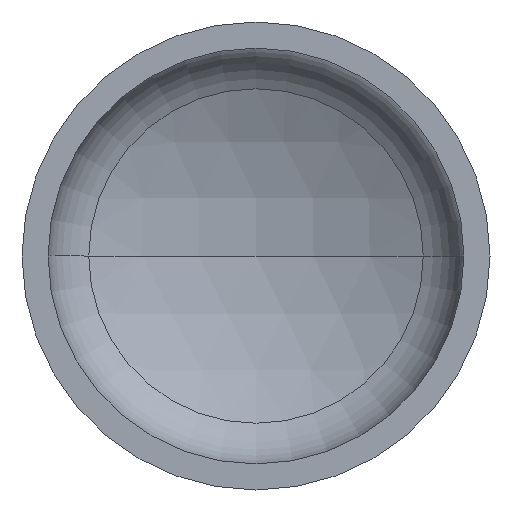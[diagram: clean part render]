
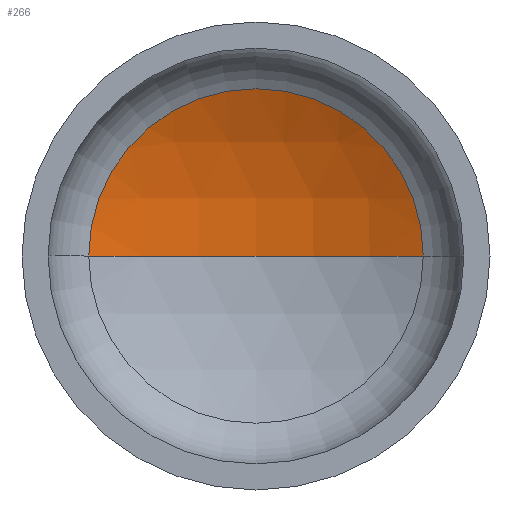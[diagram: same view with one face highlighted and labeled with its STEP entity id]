
A CAD part, front view. The second image highlights one B-rep face of the part: STEP entity #266.
In plain terms, the highlighted spherical face has radius 560 mm.
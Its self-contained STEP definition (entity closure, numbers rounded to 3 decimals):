
#49 = EDGE_LOOP ( 'NONE', ( #165, #140, #61 ) ) ;
#61 = ORIENTED_EDGE ( 'NONE', *, *, #191, .T. ) ;
#92 = DIRECTION ( 'NONE',  ( -1., 0., 0. ) ) ;
#93 = VERTEX_POINT ( 'NONE', #181 ) ;
#119 = DIRECTION ( 'NONE',  ( 0., -1., 0. ) ) ;
#121 = DIRECTION ( 'NONE',  ( 1., 0., 0. ) ) ;
#126 = CARTESIAN_POINT ( 'NONE',  ( 0., 218.417, 0. ) ) ;
#129 = CARTESIAN_POINT ( 'NONE',  ( 0., -282.615, 0. ) ) ;
#136 = DIRECTION ( 'NONE',  ( -1., 0., 0. ) ) ;
#140 = ORIENTED_EDGE ( 'NONE', *, *, #335, .T. ) ;
#161 = DIRECTION ( 'NONE',  ( 0., 0., 1. ) ) ;
#165 = ORIENTED_EDGE ( 'NONE', *, *, #369, .F. ) ;
#172 = VERTEX_POINT ( 'NONE', #393 ) ;
#181 = CARTESIAN_POINT ( 'NONE',  ( 250.133, 218.417, 0. ) ) ;
#191 = EDGE_CURVE ( 'NONE', #93, #172, #254, .T. ) ;
#193 = AXIS2_PLACEMENT_3D ( 'NONE', #126, #119, #121 ) ;
#196 = CARTESIAN_POINT ( 'NONE',  ( 0., -282.615, 0. ) ) ;
#222 = DIRECTION ( 'NONE',  ( 0., 0., -1. ) ) ;
#230 = CARTESIAN_POINT ( 'NONE',  ( 0., -282.615, 0. ) ) ;
#244 = SPHERICAL_SURFACE ( 'NONE', #277, 560. ) ;
#254 = CIRCLE ( 'NONE', #193, 250.133 ) ;
#256 = DIRECTION ( 'NONE',  ( 1., 0., 0. ) ) ;
#266 = ADVANCED_FACE ( 'NONE', ( #315 ), #244, .F. ) ;
#277 = AXIS2_PLACEMENT_3D ( 'NONE', #129, #387, #136 ) ;
#303 = VERTEX_POINT ( 'NONE', #407 ) ;
#312 = AXIS2_PLACEMENT_3D ( 'NONE', #230, #222, #92 ) ;
#315 = FACE_OUTER_BOUND ( 'NONE', #49, .T. ) ;
#335 = EDGE_CURVE ( 'NONE', #303, #93, #406, .T. ) ;
#351 = CIRCLE ( 'NONE', #384, 560. ) ;
#369 = EDGE_CURVE ( 'NONE', #303, #172, #351, .T. ) ;
#384 = AXIS2_PLACEMENT_3D ( 'NONE', #196, #161, #256 ) ;
#387 = DIRECTION ( 'NONE',  ( 0., 0., -1. ) ) ;
#393 = CARTESIAN_POINT ( 'NONE',  ( -250.133, 218.417, 0. ) ) ;
#406 = CIRCLE ( 'NONE', #312, 560. ) ;
#407 = CARTESIAN_POINT ( 'NONE',  ( 0., 277.385, 0. ) ) ;
